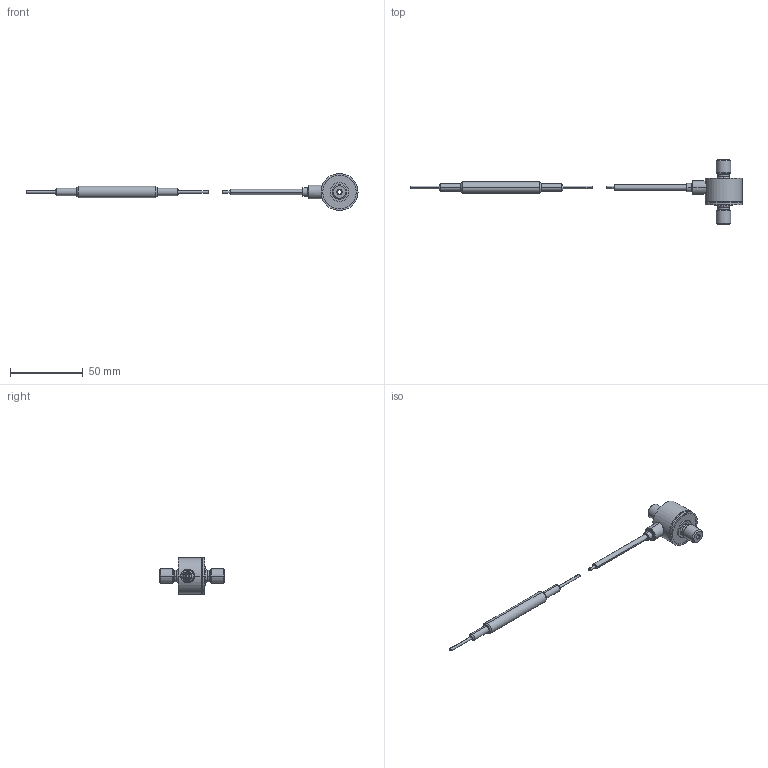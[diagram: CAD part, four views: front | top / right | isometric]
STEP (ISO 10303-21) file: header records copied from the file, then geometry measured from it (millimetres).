
FILE_DESCRIPTION(('STEP AP203'),'1');
FILE_NAME('C:/TPO v2/SharedFS/Outgoing/burster_8431-6010-v015_3z4wk8qvyh81eo59yj9hdkdob.stp','2013-08-27T17:19:28',('TraceParts'),('TraceParts S.A.'),'XStep 1.0',' ',' ');
FILE_SCHEMA(('CONFIG_CONTROL_DESIGN'));
Length unit declared in the file: millimetre
Products named in the file (2): 1; 2
Bounding box: 227.99 x 44.5 x 25.4 mm (x, y, z)
Volume: 15400.6 mm3; surface area: 6910.8 mm2
Topology: 2 solids, 2 shells, 99 faces, 216 edges, 135 vertices
Faces by surface type: cylinder 38, cone 28, plane 19, torus 14
Entity records: 2879 total; most frequent: DIRECTION 559, CARTESIAN_POINT 488, ORIENTED_EDGE 432, AXIS2_PLACEMENT_3D 246, EDGE_CURVE 216, CIRCLE 145, VERTEX_POINT 135, EDGE_LOOP 115
